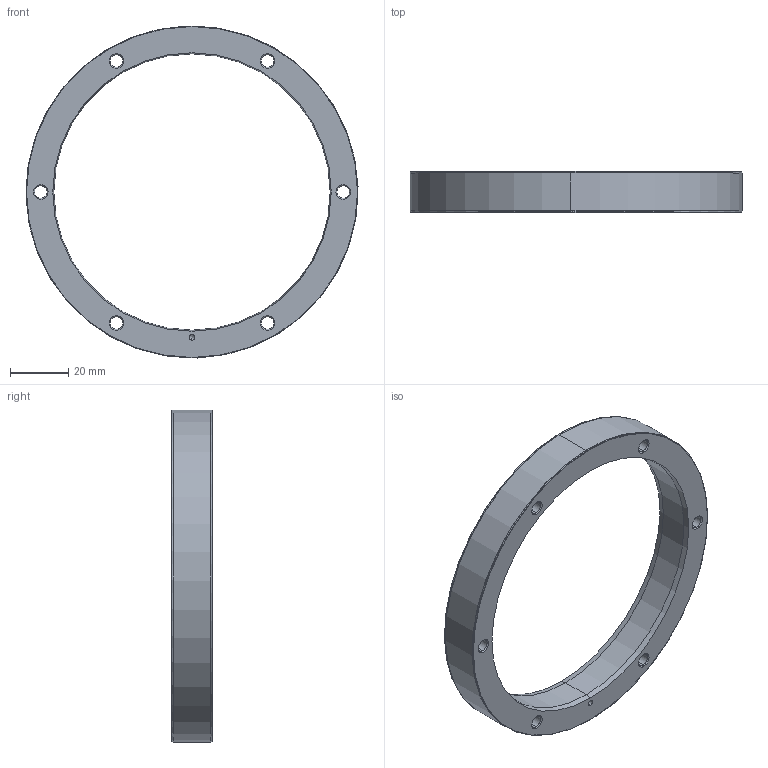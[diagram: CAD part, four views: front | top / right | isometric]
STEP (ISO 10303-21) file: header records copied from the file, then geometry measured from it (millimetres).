
FILE_DESCRIPTION (( 'STEP AP214' ), '1' );
FILE_NAME ('SAR114.STEP', '2023-04-21T12:52:04', ( '' ), ( '' ), 'SwSTEP 2.0', 'SolidWorks 2020', '' );
FILE_SCHEMA (( 'AUTOMOTIVE_DESIGN' ));
Length unit declared in the file: millimetre
Products named in the file (1): SAR114
Bounding box: 114.15 x 14 x 114.15 mm (x, y, z)
Volume: 42663 mm3; surface area: 16292.4 mm2
Topology: 1 solids, 1 shells, 553 faces, 1492 edges, 982 vertices
Faces by surface type: plane 367, bspline 116, cylinder 34, cone 32, torus 4
Entity records: 23267 total; most frequent: CARTESIAN_POINT 9228, ORIENTED_EDGE 2976, DIRECTION 2240, EDGE_CURVE 1488, VECTOR 1148, LINE 1148, VERTEX_POINT 982, EDGE_LOOP 612
